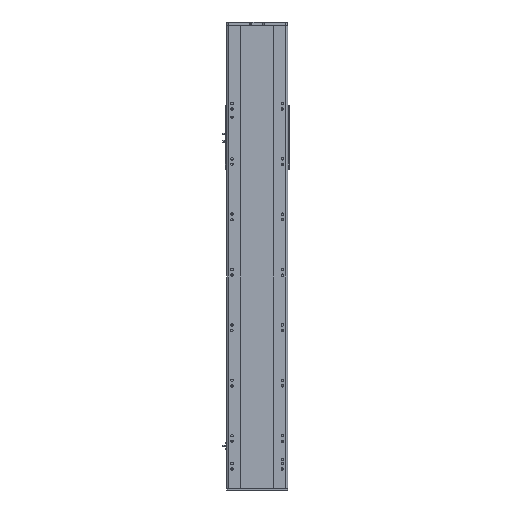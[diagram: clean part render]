
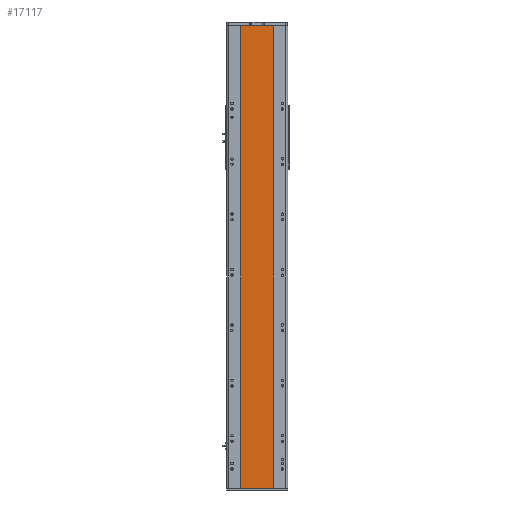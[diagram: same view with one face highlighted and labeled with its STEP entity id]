
A CAD part, front view. The second image highlights one B-rep face of the part: STEP entity #17117.
In plain terms, the highlighted planar face has unit normal (0, -1, 0).
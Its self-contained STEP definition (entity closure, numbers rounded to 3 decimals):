
#117 = VECTOR ( 'NONE', #463, 1000. ) ;
#463 = DIRECTION ( 'NONE',  ( 0., 0., -1. ) ) ;
#3139 = FACE_OUTER_BOUND ( 'NONE', #31805, .T. ) ;
#4908 = CARTESIAN_POINT ( 'NONE',  ( -59., 1., -835.5 ) ) ;
#5174 = DIRECTION ( 'NONE',  ( 0., 0., -1. ) ) ;
#5599 = ORIENTED_EDGE ( 'NONE', *, *, #13321, .T. ) ;
#6298 = PLANE ( 'NONE',  #11097 ) ;
#6848 = ORIENTED_EDGE ( 'NONE', *, *, #34002, .F. ) ;
#7381 = LINE ( 'NONE', #36849, #18764 ) ;
#8080 = CARTESIAN_POINT ( 'NONE',  ( -59., 1., 835.5 ) ) ;
#9815 = VERTEX_POINT ( 'NONE', #32766 ) ;
#9898 = VERTEX_POINT ( 'NONE', #11933 ) ;
#10981 = LINE ( 'NONE', #15233, #117 ) ;
#11097 = AXIS2_PLACEMENT_3D ( 'NONE', #37016, #27672, #36502 ) ;
#11468 = EDGE_CURVE ( 'NONE', #9815, #11580, #20847, .T. ) ;
#11580 = VERTEX_POINT ( 'NONE', #29288 ) ;
#11933 = CARTESIAN_POINT ( 'NONE',  ( 59., 1., 835.5 ) ) ;
#13204 = LINE ( 'NONE', #29699, #28430 ) ;
#13321 = EDGE_CURVE ( 'NONE', #24722, #9815, #13204, .T. ) ;
#14394 = EDGE_CURVE ( 'NONE', #24722, #9898, #7381, .T. ) ;
#15233 = CARTESIAN_POINT ( 'NONE',  ( 59., 1., 835.5 ) ) ;
#17117 = ADVANCED_FACE ( 'NONE', ( #3139 ), #6298, .F. ) ;
#18764 = VECTOR ( 'NONE', #27511, 1000. ) ;
#19880 = VECTOR ( 'NONE', #38486, 1000. ) ;
#20847 = LINE ( 'NONE', #4908, #19880 ) ;
#24722 = VERTEX_POINT ( 'NONE', #8080 ) ;
#27511 = DIRECTION ( 'NONE',  ( 1., 0., 0. ) ) ;
#27672 = DIRECTION ( 'NONE',  ( 0., 1., 0. ) ) ;
#28430 = VECTOR ( 'NONE', #5174, 1000. ) ;
#29288 = CARTESIAN_POINT ( 'NONE',  ( 59., 1., -835.5 ) ) ;
#29699 = CARTESIAN_POINT ( 'NONE',  ( -59., 1., 835.5 ) ) ;
#31805 = EDGE_LOOP ( 'NONE', ( #38881, #6848, #36316, #5599 ) ) ;
#32766 = CARTESIAN_POINT ( 'NONE',  ( -59., 1., -835.5 ) ) ;
#34002 = EDGE_CURVE ( 'NONE', #9898, #11580, #10981, .T. ) ;
#36316 = ORIENTED_EDGE ( 'NONE', *, *, #14394, .F. ) ;
#36502 = DIRECTION ( 'NONE',  ( -1., 0., 0. ) ) ;
#36849 = CARTESIAN_POINT ( 'NONE',  ( -59., 1., 835.5 ) ) ;
#37016 = CARTESIAN_POINT ( 'NONE',  ( -59., 1., 835.5 ) ) ;
#38486 = DIRECTION ( 'NONE',  ( 1., 0., 0. ) ) ;
#38881 = ORIENTED_EDGE ( 'NONE', *, *, #11468, .T. ) ;
